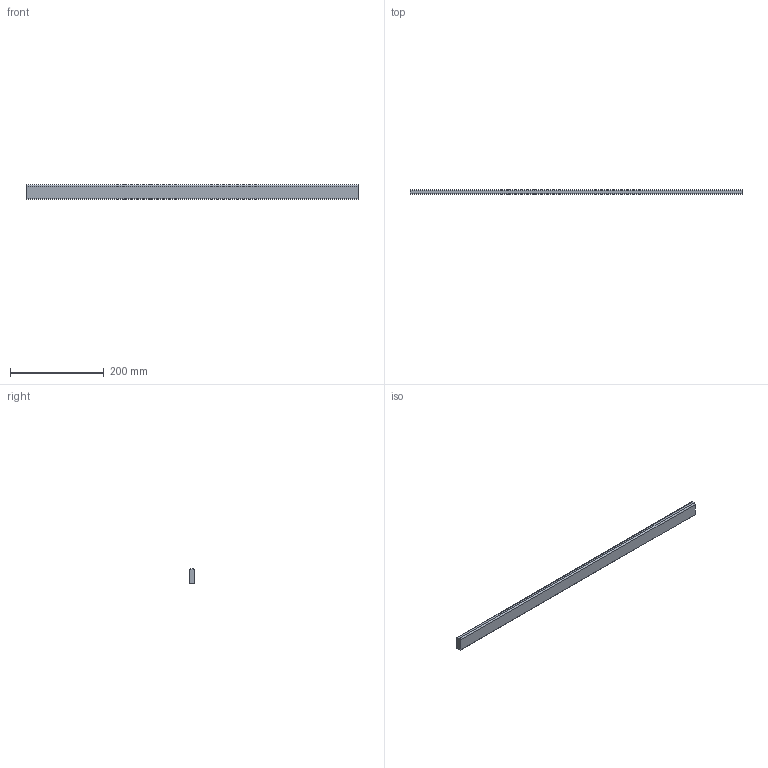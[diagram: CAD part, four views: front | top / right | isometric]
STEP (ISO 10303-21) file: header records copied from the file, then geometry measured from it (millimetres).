
FILE_DESCRIPTION (( 'STEP AP214' ), '1' );
FILE_NAME ('_Querreling_KAB-800_KS-19.step', '2010-08-26T14:58:37', ( 'grass' ), ( '' ), 'SwSTEP 2.0', 'SolidWorks 2009', '' );
FILE_SCHEMA (( 'AUTOMOTIVE_DESIGN' ));
Length unit declared in the file: millimetre
Products named in the file (1): _Querreling_KAB-800_KS-19
Bounding box: 706.5 x 10.5 x 30 mm (x, y, z)
Volume: 219515.2 mm3; surface area: 55422.1 mm2
Topology: 1 solids, 1 shells, 10 faces, 24 edges, 16 vertices
Faces by surface type: plane 6, cylinder 4
Entity records: 330 total; most frequent: DIRECTION 54, CARTESIAN_POINT 51, ORIENTED_EDGE 48, EDGE_CURVE 24, AXIS2_PLACEMENT_3D 19, LINE 16, VECTOR 16, VERTEX_POINT 16
